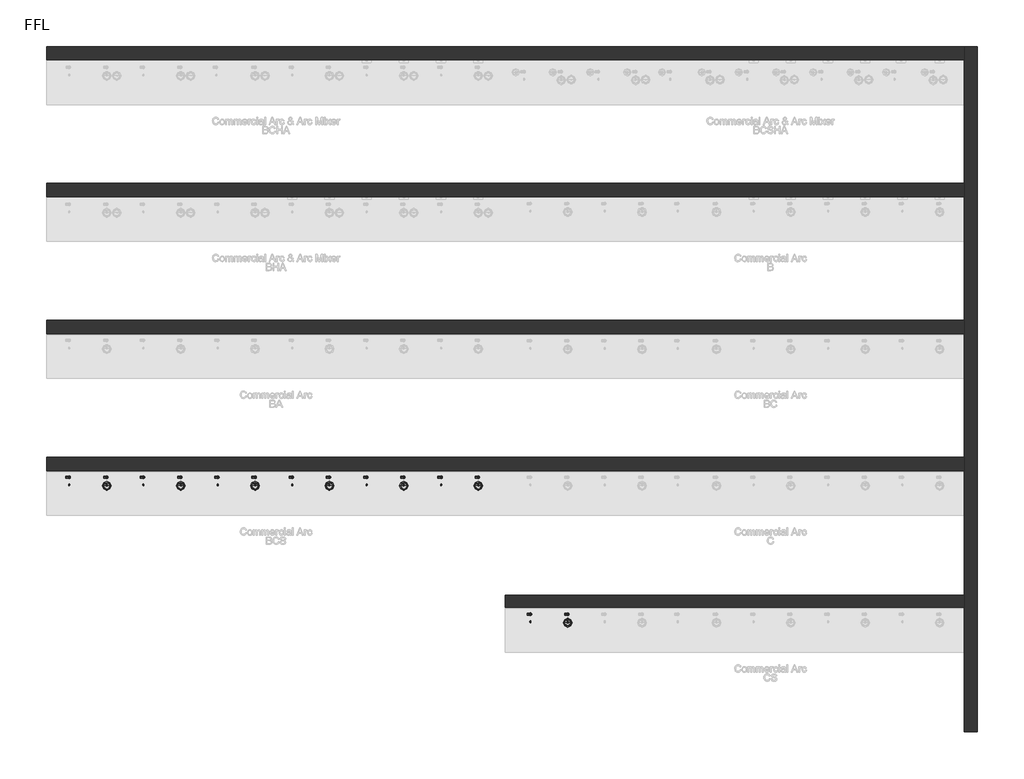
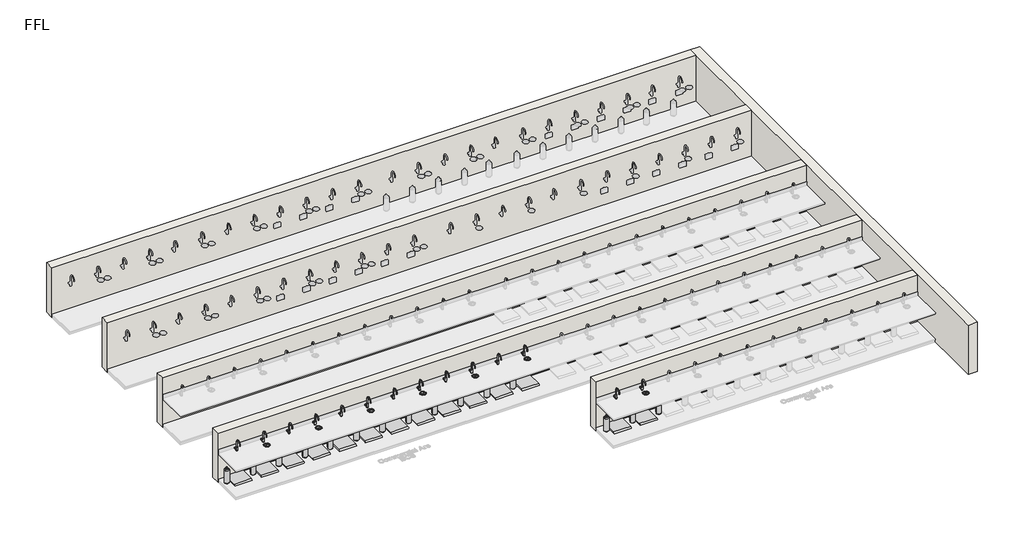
# One storey, part 1 of 10: 56 flow terminals, 6 walls.
"""IFC4 building model written with IfcOpenShell, lengths in millimetres."""

from ifc_helpers import new_model, si_unit, origin, origin_with_axes, place, context, project, spatial, polyline, outline, extrude, faceted_brep, transform, mapped, element, save
from components import flow_terminal_1fd3c137, bcs_and_bc_6de74493, bright_chrome_dafbc2dd, brushed_chrome_743c02cf, co2_gas_cylinder_20234e14

model = new_model("IFC4")

# Units and contexts
model_context = context("Model", 3, world=origin())
ifc_project = project(units=[si_unit("LENGTHUNIT", "METRE", prefix="MILLI")], contexts=[model_context])

# Site, building, storey
site = spatial("IfcSite", under=ifc_project)
building = spatial("IfcBuilding", under=site)
storey = spatial("IfcBuildingStorey", under=building, Name="FFL", Elevation=0.0)

# Flow terminals
placement = place(None, origin())
flow_terminal_shape = flow_terminal_1fd3c137(model_context)
element("IfcFlowTerminal", 1, ObjectType="z_PlumFixt_Zenith_Booster : Booster", at=placement, inside=storey, context=model_context, shape_type="MappedRepresentation", body=[
    mapped(flow_terminal_shape, transform((2786.2647071, -3139.7606696, 538.0), x_axis=(1.0, 0.0, 0.0), y_axis=(0.0, 1.0, 0.0), z_axis=(0.0, 0.0, 1.0))),
])
element("IfcFlowTerminal", 2, ObjectType="z_PlumFixt_Zenith_Booster : Booster", at=placement, inside=storey, context=model_context, shape_type="MappedRepresentation", body=[
    mapped(flow_terminal_shape, transform((3536.2647071, -3139.7606696, 538.0), x_axis=(1.0, 0.0, 0.0), y_axis=(0.0, 1.0, 0.0), z_axis=(0.0, 0.0, 1.0))),
])
element("IfcFlowTerminal", 3, ObjectType="z_PlumFixt_Zenith_Booster : Booster", at=placement, inside=storey, context=model_context, shape_type="MappedRepresentation", body=[
    mapped(flow_terminal_shape, transform((1733.2647071, -379.7606696, 538.0), x_axis=(1.0, 0.0, 0.0), y_axis=(0.0, 1.0, 0.0), z_axis=(0.0, 0.0, 1.0))),
])
element("IfcFlowTerminal", 4, ObjectType="z_PlumFixt_Zenith_Booster : Booster", at=placement, inside=storey, context=model_context, shape_type="MappedRepresentation", body=[
    mapped(flow_terminal_shape, transform((983.2647071, -379.7606696, 538.0), x_axis=(1.0, 0.0, 0.0), y_axis=(0.0, 1.0, 0.0), z_axis=(0.0, 0.0, 1.0))),
])
element("IfcFlowTerminal", 5, ObjectType="z_PlumFixt_Zenith_Booster : Booster", at=placement, inside=storey, context=model_context, shape_type="MappedRepresentation", body=[
    mapped(flow_terminal_shape, transform((233.2647071, -379.7606696, 538.0), x_axis=(1.0, 0.0, 0.0), y_axis=(0.0, 1.0, 0.0), z_axis=(0.0, 0.0, 1.0))),
])
element("IfcFlowTerminal", 6, ObjectType="z_PlumFixt_Zenith_Booster : Booster", at=placement, inside=storey, context=model_context, shape_type="MappedRepresentation", body=[
    mapped(flow_terminal_shape, transform((-516.7352929, -379.7606696, 538.0), x_axis=(1.0, 0.0, 0.0), y_axis=(0.0, 1.0, 0.0), z_axis=(0.0, 0.0, 1.0))),
])
bcs_and_bc_shape = bcs_and_bc_6de74493(model_context)
element("IfcFlowTerminal", 7, ObjectType="z_PlumFixt_Zenith_Vent Tray : BCS and BC", at=placement, inside=storey, context=model_context, shape_type="MappedRepresentation", body=[
    mapped(bcs_and_bc_shape, transform((-6516.7352929, -559.2606696, 100.0), x_axis=(1.0, 0.0, 0.0), y_axis=(0.0, 1.0, 0.0), z_axis=(0.0, 0.0, 1.0))),
])
element("IfcFlowTerminal", 8, ObjectType="z_PlumFixt_Zenith_Vent Tray : BCS and BC", at=placement, inside=storey, context=model_context, shape_type="MappedRepresentation", body=[
    mapped(bcs_and_bc_shape, transform((-5756.7352929, -559.2606696, 100.0), x_axis=(1.0, 0.0, 0.0), y_axis=(0.0, 1.0, 0.0), z_axis=(0.0, 0.0, 1.0))),
])
element("IfcFlowTerminal", 9, ObjectType="z_PlumFixt_Zenith_Vent Tray : BCS and BC", at=placement, inside=storey, context=model_context, shape_type="MappedRepresentation", body=[
    mapped(bcs_and_bc_shape, transform((-5016.7352929, -559.2606696, 100.0), x_axis=(1.0, 0.0, 0.0), y_axis=(0.0, 1.0, 0.0), z_axis=(0.0, 0.0, 1.0))),
])
element("IfcFlowTerminal", 10, ObjectType="z_PlumFixt_Zenith_Vent Tray : BCS and BC", at=placement, inside=storey, context=model_context, shape_type="MappedRepresentation", body=[
    mapped(bcs_and_bc_shape, transform((-4266.7352929, -559.2606696, 100.0), x_axis=(1.0, 0.0, 0.0), y_axis=(0.0, 1.0, 0.0), z_axis=(0.0, 0.0, 1.0))),
])
element("IfcFlowTerminal", 11, ObjectType="z_PlumFixt_Zenith_Vent Tray : BCS and BC", at=placement, inside=storey, context=model_context, shape_type="MappedRepresentation", body=[
    mapped(bcs_and_bc_shape, transform((-3516.7352929, -559.2606696, 100.0), x_axis=(1.0, 0.0, 0.0), y_axis=(0.0, 1.0, 0.0), z_axis=(0.0, 0.0, 1.0))),
])
element("IfcFlowTerminal", 12, ObjectType="z_PlumFixt_Zenith_Vent Tray : BCS and BC", at=placement, inside=storey, context=model_context, shape_type="MappedRepresentation", body=[
    mapped(bcs_and_bc_shape, transform((-2766.7352929, -559.2606696, 100.0), x_axis=(1.0, 0.0, 0.0), y_axis=(0.0, 1.0, 0.0), z_axis=(0.0, 0.0, 1.0))),
])
element("IfcFlowTerminal", 13, ObjectType="z_PlumFixt_Zenith_Vent Tray : BCS and BC", at=placement, inside=storey, context=model_context, shape_type="MappedRepresentation", body=[
    mapped(bcs_and_bc_shape, transform((-2016.7352929, -559.2606696, 100.0), x_axis=(1.0, 0.0, 0.0), y_axis=(0.0, 1.0, 0.0), z_axis=(0.0, 0.0, 1.0))),
])
element("IfcFlowTerminal", 14, ObjectType="z_PlumFixt_Zenith_Vent Tray : BCS and BC", at=placement, inside=storey, context=model_context, shape_type="MappedRepresentation", body=[
    mapped(bcs_and_bc_shape, transform((-1266.7352929, -559.2606696, 100.0), x_axis=(1.0, 0.0, 0.0), y_axis=(0.0, 1.0, 0.0), z_axis=(0.0, 0.0, 1.0))),
])
element("IfcFlowTerminal", 15, ObjectType="z_PlumFixt_Zenith_Vent Tray : BCS and BC", at=placement, inside=storey, context=model_context, shape_type="MappedRepresentation", body=[
    mapped(bcs_and_bc_shape, transform((-516.7352929, -559.2606696, 100.0), x_axis=(1.0, 0.0, 0.0), y_axis=(0.0, 1.0, 0.0), z_axis=(0.0, 0.0, 1.0))),
])
element("IfcFlowTerminal", 16, ObjectType="z_PlumFixt_Zenith_Vent Tray : BCS and BC", at=placement, inside=storey, context=model_context, shape_type="MappedRepresentation", body=[
    mapped(bcs_and_bc_shape, transform((233.2647071, -559.2606696, 100.0), x_axis=(1.0, 0.0, 0.0), y_axis=(0.0, 1.0, 0.0), z_axis=(0.0, 0.0, 1.0))),
])
element("IfcFlowTerminal", 17, ObjectType="z_PlumFixt_Zenith_Vent Tray : BCS and BC", at=placement, inside=storey, context=model_context, shape_type="MappedRepresentation", body=[
    mapped(bcs_and_bc_shape, transform((983.2647071, -559.2606696, 100.0), x_axis=(1.0, 0.0, 0.0), y_axis=(0.0, 1.0, 0.0), z_axis=(0.0, 0.0, 1.0))),
])
element("IfcFlowTerminal", 18, ObjectType="z_PlumFixt_Zenith_Vent Tray : BCS and BC", at=placement, inside=storey, context=model_context, shape_type="MappedRepresentation", body=[
    mapped(bcs_and_bc_shape, transform((1733.2647071, -559.2606696, 100.0), x_axis=(1.0, 0.0, 0.0), y_axis=(0.0, 1.0, 0.0), z_axis=(0.0, 0.0, 1.0))),
])
bright_chrome_shape = bright_chrome_dafbc2dd(model_context)
element("IfcFlowTerminal", 19, ObjectType="z_PlumFixt_Zenith_Arc : Bright Chrome", at=placement, inside=storey, context=model_context, shape_type="MappedRepresentation", body=[
    mapped(bright_chrome_shape, transform((2769.2647071, -3414.2606696, 900.0), x_axis=(1.0, 0.0, 0.0), y_axis=(0.0, 1.0, 0.0), z_axis=(0.0, 0.0, 1.0))),
])
element("IfcFlowTerminal", 20, ObjectType="z_PlumFixt_Zenith_Arc : Bright Chrome", at=placement, inside=storey, context=model_context, shape_type="MappedRepresentation", body=[
    mapped(bright_chrome_shape, transform((-6533.7352929, -654.2606696, 900.0), x_axis=(1.0, 0.0, 0.0), y_axis=(0.0, 1.0, 0.0), z_axis=(0.0, 0.0, 1.0))),
])
brushed_chrome_shape = brushed_chrome_743c02cf(model_context)
element("IfcFlowTerminal", 21, ObjectType="z_PlumFixt_Zenith_Font : Brushed Chrome", at=placement, inside=storey, context=model_context, shape_type="MappedRepresentation", body=[
    mapped(brushed_chrome_shape, transform((3536.2647071, -3513.7606696, 900.0), x_axis=(1.0, 0.0, 0.0), y_axis=(0.0, 1.0, 0.0), z_axis=(0.0, 0.0, 1.0))),
])
element("IfcFlowTerminal", 22, ObjectType="z_PlumFixt_Zenith_Font : Brushed Chrome", at=placement, inside=storey, context=model_context, shape_type="MappedRepresentation", body=[
    mapped(brushed_chrome_shape, transform((-5756.7352929, -753.7606696, 900.0), x_axis=(1.0, 0.0, 0.0), y_axis=(0.0, 1.0, 0.0), z_axis=(0.0, 0.0, 1.0))),
])
element("IfcFlowTerminal", 23, ObjectType="z_PlumFixt_Zenith_Arc : Brushed Chrome", at=placement, inside=storey, context=model_context, shape_type="MappedRepresentation", body=[
    mapped(bright_chrome_shape, transform((3519.2647071, -3414.2606696, 900.0), x_axis=(1.0, 0.0, 0.0), y_axis=(0.0, 1.0, 0.0), z_axis=(0.0, 0.0, 1.0))),
])
element("IfcFlowTerminal", 24, ObjectType="z_PlumFixt_Zenith_Arc : Brushed Chrome", at=placement, inside=storey, context=model_context, shape_type="MappedRepresentation", body=[
    mapped(bright_chrome_shape, transform((-5773.7352929, -654.2606696, 900.0), x_axis=(1.0, 0.0, 0.0), y_axis=(0.0, 1.0, 0.0), z_axis=(0.0, 0.0, 1.0))),
])
element("IfcFlowTerminal", 25, ObjectType="z_PlumFixt_Zenith_Arc : Brushed Gold", at=placement, inside=storey, context=model_context, shape_type="MappedRepresentation", body=[
    mapped(bright_chrome_shape, transform((-5033.7352929, -654.2606696, 900.0), x_axis=(1.0, 0.0, 0.0), y_axis=(0.0, 1.0, 0.0), z_axis=(0.0, 0.0, 1.0))),
])
element("IfcFlowTerminal", 26, ObjectType="z_PlumFixt_Zenith_Font : Brushed Nickel", at=placement, inside=storey, context=model_context, shape_type="MappedRepresentation", body=[
    mapped(brushed_chrome_shape, transform((-4266.7352929, -753.7606696, 900.0), x_axis=(1.0, 0.0, 0.0), y_axis=(0.0, 1.0, 0.0), z_axis=(0.0, 0.0, 1.0))),
])
element("IfcFlowTerminal", 27, ObjectType="z_PlumFixt_Zenith_Arc : Brushed Nickel", at=placement, inside=storey, context=model_context, shape_type="MappedRepresentation", body=[
    mapped(bright_chrome_shape, transform((-4283.7352929, -654.2606696, 900.0), x_axis=(1.0, 0.0, 0.0), y_axis=(0.0, 1.0, 0.0), z_axis=(0.0, 0.0, 1.0))),
])
element("IfcFlowTerminal", 28, ObjectType="z_PlumFixt_Zenith_Arc : Brushed Rose Gold", at=placement, inside=storey, context=model_context, shape_type="MappedRepresentation", body=[
    mapped(bright_chrome_shape, transform((-3533.7352929, -654.2606696, 900.0), x_axis=(1.0, 0.0, 0.0), y_axis=(0.0, 1.0, 0.0), z_axis=(0.0, 0.0, 1.0))),
])
co2_gas_cylinder_shape = co2_gas_cylinder_20234e14(model_context)
element("IfcFlowTerminal", 29, ObjectType="z_PlumFixt_Zenith_CO2 Gas Cylinder : CO2 Gas Cylinder", at=placement, inside=storey, context=model_context, shape_type="MappedRepresentation", body=[
    mapped(co2_gas_cylinder_shape, transform((2448.2647071, -3521.7606696, 100.0), x_axis=(-1.0, 0.0, 0.0), y_axis=(0.0, -1.0, 0.0), z_axis=(0.0, 0.0, 1.0))),
])
element("IfcFlowTerminal", 30, ObjectType="z_PlumFixt_Zenith_CO2 Gas Cylinder : CO2 Gas Cylinder", at=placement, inside=storey, context=model_context, shape_type="MappedRepresentation", body=[
    mapped(co2_gas_cylinder_shape, transform((3198.2647071, -3521.7606696, 100.0), x_axis=(-1.0, 0.0, 0.0), y_axis=(0.0, -1.0, 0.0), z_axis=(0.0, 0.0, 1.0))),
])
element("IfcFlowTerminal", 31, ObjectType="z_PlumFixt_Zenith_CO2 Gas Cylinder : CO2 Gas Cylinder", at=placement, inside=storey, context=model_context, shape_type="MappedRepresentation", body=[
    mapped(co2_gas_cylinder_shape, transform((3948.2647071, -3521.7606696, 100.0), x_axis=(-1.0, 0.0, 0.0), y_axis=(0.0, -1.0, 0.0), z_axis=(0.0, 0.0, 1.0))),
])
element("IfcFlowTerminal", 32, ObjectType="z_PlumFixt_Zenith_CO2 Gas Cylinder : CO2 Gas Cylinder", at=placement, inside=storey, context=model_context, shape_type="MappedRepresentation", body=[
    mapped(co2_gas_cylinder_shape, transform((-6863.7352929, -754.2606696, 100.0), x_axis=(-1.0, 0.0, 0.0), y_axis=(0.0, -1.0, 0.0), z_axis=(0.0, 0.0, 1.0))),
])
element("IfcFlowTerminal", 33, ObjectType="z_PlumFixt_Zenith_CO2 Gas Cylinder : CO2 Gas Cylinder", at=placement, inside=storey, context=model_context, shape_type="MappedRepresentation", body=[
    mapped(co2_gas_cylinder_shape, transform((-6103.7352929, -754.2606696, 100.0), x_axis=(-1.0, 0.0, 0.0), y_axis=(0.0, -1.0, 0.0), z_axis=(0.0, 0.0, 1.0))),
])
element("IfcFlowTerminal", 34, ObjectType="z_PlumFixt_Zenith_CO2 Gas Cylinder : CO2 Gas Cylinder", at=placement, inside=storey, context=model_context, shape_type="MappedRepresentation", body=[
    mapped(co2_gas_cylinder_shape, transform((-5363.7352929, -754.2606696, 100.0), x_axis=(-1.0, 0.0, 0.0), y_axis=(0.0, -1.0, 0.0), z_axis=(0.0, 0.0, 1.0))),
])
element("IfcFlowTerminal", 35, ObjectType="z_PlumFixt_Zenith_CO2 Gas Cylinder : CO2 Gas Cylinder", at=placement, inside=storey, context=model_context, shape_type="MappedRepresentation", body=[
    mapped(co2_gas_cylinder_shape, transform((-4613.7352929, -754.2606696, 100.0), x_axis=(-1.0, 0.0, 0.0), y_axis=(0.0, -1.0, 0.0), z_axis=(0.0, 0.0, 1.0))),
])
element("IfcFlowTerminal", 36, ObjectType="z_PlumFixt_Zenith_CO2 Gas Cylinder : CO2 Gas Cylinder", at=placement, inside=storey, context=model_context, shape_type="MappedRepresentation", body=[
    mapped(co2_gas_cylinder_shape, transform((-3891.7352929, -755.7606696, 100.0), x_axis=(-1.0, 0.0, 0.0), y_axis=(0.0, -1.0, 0.0), z_axis=(0.0, 0.0, 1.0))),
])
element("IfcFlowTerminal", 37, ObjectType="z_PlumFixt_Zenith_CO2 Gas Cylinder : CO2 Gas Cylinder", at=placement, inside=storey, context=model_context, shape_type="MappedRepresentation", body=[
    mapped(co2_gas_cylinder_shape, transform((-3141.7352929, -755.7606696, 100.0), x_axis=(-1.0, 0.0, 0.0), y_axis=(0.0, -1.0, 0.0), z_axis=(0.0, 0.0, 1.0))),
])
element("IfcFlowTerminal", 38, ObjectType="z_PlumFixt_Zenith_CO2 Gas Cylinder : CO2 Gas Cylinder", at=placement, inside=storey, context=model_context, shape_type="MappedRepresentation", body=[
    mapped(co2_gas_cylinder_shape, transform((-2391.7352929, -755.7606696, 100.0), x_axis=(-1.0, 0.0, 0.0), y_axis=(0.0, -1.0, 0.0), z_axis=(0.0, 0.0, 1.0))),
])
element("IfcFlowTerminal", 39, ObjectType="z_PlumFixt_Zenith_CO2 Gas Cylinder : CO2 Gas Cylinder", at=placement, inside=storey, context=model_context, shape_type="MappedRepresentation", body=[
    mapped(co2_gas_cylinder_shape, transform((-1641.7352929, -755.7606696, 100.0), x_axis=(-1.0, 0.0, 0.0), y_axis=(0.0, -1.0, 0.0), z_axis=(0.0, 0.0, 1.0))),
])
element("IfcFlowTerminal", 40, ObjectType="z_PlumFixt_Zenith_CO2 Gas Cylinder : CO2 Gas Cylinder", at=placement, inside=storey, context=model_context, shape_type="MappedRepresentation", body=[
    mapped(co2_gas_cylinder_shape, transform((-891.7352929, -755.7606696, 100.0), x_axis=(-1.0, 0.0, 0.0), y_axis=(0.0, -1.0, 0.0), z_axis=(0.0, 0.0, 1.0))),
])
element("IfcFlowTerminal", 41, ObjectType="z_PlumFixt_Zenith_CO2 Gas Cylinder : CO2 Gas Cylinder", at=placement, inside=storey, context=model_context, shape_type="MappedRepresentation", body=[
    mapped(co2_gas_cylinder_shape, transform((-141.7352929, -755.7606696, 100.0), x_axis=(-1.0, 0.0, 0.0), y_axis=(0.0, -1.0, 0.0), z_axis=(0.0, 0.0, 1.0))),
])
element("IfcFlowTerminal", 42, ObjectType="z_PlumFixt_Zenith_CO2 Gas Cylinder : CO2 Gas Cylinder", at=placement, inside=storey, context=model_context, shape_type="MappedRepresentation", body=[
    mapped(co2_gas_cylinder_shape, transform((608.2647071, -755.7606696, 100.0), x_axis=(-1.0, 0.0, 0.0), y_axis=(0.0, -1.0, 0.0), z_axis=(0.0, 0.0, 1.0))),
])
element("IfcFlowTerminal", 43, ObjectType="z_PlumFixt_Zenith_CO2 Gas Cylinder : CO2 Gas Cylinder", at=placement, inside=storey, context=model_context, shape_type="MappedRepresentation", body=[
    mapped(co2_gas_cylinder_shape, transform((1358.2647071, -755.7606696, 100.0), x_axis=(-1.0, 0.0, 0.0), y_axis=(0.0, -1.0, 0.0), z_axis=(0.0, 0.0, 1.0))),
])
element("IfcFlowTerminal", 44, ObjectType="z_PlumFixt_Zenith_Vent Tray : CS and C", at=placement, inside=storey, context=model_context, shape_type="MappedRepresentation", body=[
    mapped(bcs_and_bc_shape, transform((2786.2647071, -3319.2606696, 100.0), x_axis=(1.0, 0.0, 0.0), y_axis=(0.0, 1.0, 0.0), z_axis=(0.0, 0.0, 1.0))),
])
element("IfcFlowTerminal", 45, ObjectType="z_PlumFixt_Zenith_Vent Tray : CS and C", at=placement, inside=storey, context=model_context, shape_type="MappedRepresentation", body=[
    mapped(bcs_and_bc_shape, transform((3536.2647071, -3319.2606696, 100.0), x_axis=(1.0, 0.0, 0.0), y_axis=(0.0, 1.0, 0.0), z_axis=(0.0, 0.0, 1.0))),
])
element("IfcFlowTerminal", 46, ObjectType="z_PlumFixt_Zenith_Font : Gloss Black", at=placement, inside=storey, context=model_context, shape_type="MappedRepresentation", body=[
    mapped(brushed_chrome_shape, transform((-2766.7352929, -753.7606696, 900.0), x_axis=(1.0, 0.0, 0.0), y_axis=(0.0, 1.0, 0.0), z_axis=(0.0, 0.0, 1.0))),
])
element("IfcFlowTerminal", 47, ObjectType="z_PlumFixt_Zenith_Arc : Gloss Black", at=placement, inside=storey, context=model_context, shape_type="MappedRepresentation", body=[
    mapped(bright_chrome_shape, transform((-2783.7352929, -654.2606696, 900.0), x_axis=(1.0, 0.0, 0.0), y_axis=(0.0, 1.0, 0.0), z_axis=(0.0, 0.0, 1.0))),
])
element("IfcFlowTerminal", 48, ObjectType="z_PlumFixt_Zenith_Arc : Gold", at=placement, inside=storey, context=model_context, shape_type="MappedRepresentation", body=[
    mapped(bright_chrome_shape, transform((-2033.7352929, -654.2606696, 900.0), x_axis=(1.0, 0.0, 0.0), y_axis=(0.0, 1.0, 0.0), z_axis=(0.0, 0.0, 1.0))),
])
element("IfcFlowTerminal", 49, ObjectType="z_PlumFixt_Zenith_Font : Gunmetal", at=placement, inside=storey, context=model_context, shape_type="MappedRepresentation", body=[
    mapped(brushed_chrome_shape, transform((-1266.7352929, -753.7606696, 900.0), x_axis=(1.0, 0.0, 0.0), y_axis=(0.0, 1.0, 0.0), z_axis=(0.0, 0.0, 1.0))),
])
element("IfcFlowTerminal", 50, ObjectType="z_PlumFixt_Zenith_Arc : Gunmetal", at=placement, inside=storey, context=model_context, shape_type="MappedRepresentation", body=[
    mapped(bright_chrome_shape, transform((-1283.7352929, -654.2606696, 900.0), x_axis=(1.0, 0.0, 0.0), y_axis=(0.0, 1.0, 0.0), z_axis=(0.0, 0.0, 1.0))),
])
element("IfcFlowTerminal", 51, ObjectType="z_PlumFixt_Zenith_Arc : Matte Black", at=placement, inside=storey, context=model_context, shape_type="MappedRepresentation", body=[
    mapped(bright_chrome_shape, transform((-533.7352929, -654.2606696, 900.0), x_axis=(1.0, 0.0, 0.0), y_axis=(0.0, 1.0, 0.0), z_axis=(0.0, 0.0, 1.0))),
])
element("IfcFlowTerminal", 52, ObjectType="z_PlumFixt_Zenith_Font : Nickel", at=placement, inside=storey, context=model_context, shape_type="MappedRepresentation", body=[
    mapped(brushed_chrome_shape, transform((233.2647071, -753.7606696, 900.0), x_axis=(1.0, 0.0, 0.0), y_axis=(0.0, 1.0, 0.0), z_axis=(0.0, 0.0, 1.0))),
])
element("IfcFlowTerminal", 53, ObjectType="z_PlumFixt_Zenith_Arc : Nickel", at=placement, inside=storey, context=model_context, shape_type="MappedRepresentation", body=[
    mapped(bright_chrome_shape, transform((216.2647071, -654.2606696, 900.0), x_axis=(1.0, 0.0, 0.0), y_axis=(0.0, 1.0, 0.0), z_axis=(0.0, 0.0, 1.0))),
])
element("IfcFlowTerminal", 54, ObjectType="z_PlumFixt_Zenith_Arc : Platinum", at=placement, inside=storey, context=model_context, shape_type="MappedRepresentation", body=[
    mapped(bright_chrome_shape, transform((966.2647071, -654.2606696, 900.0), x_axis=(1.0, 0.0, 0.0), y_axis=(0.0, 1.0, 0.0), z_axis=(0.0, 0.0, 1.0))),
])
element("IfcFlowTerminal", 55, ObjectType="z_PlumFixt_Zenith_Font : Rose Gold", at=placement, inside=storey, context=model_context, shape_type="MappedRepresentation", body=[
    mapped(brushed_chrome_shape, transform((1733.2647071, -753.7606696, 900.0), x_axis=(1.0, 0.0, 0.0), y_axis=(0.0, 1.0, 0.0), z_axis=(0.0, 0.0, 1.0))),
])
element("IfcFlowTerminal", 56, ObjectType="z_PlumFixt_Zenith_Arc : Rose Gold", at=placement, inside=storey, context=model_context, shape_type="MappedRepresentation", body=[
    mapped(bright_chrome_shape, transform((1716.2647071, -654.2606696, 900.0), x_axis=(1.0, 0.0, 0.0), y_axis=(0.0, 1.0, 0.0), z_axis=(0.0, 0.0, 1.0))),
])

# Walls
element("IfcWall", 57, ObjectType="Brick veneer - 250 timber", at=placement, inside=storey, context=model_context, shape_type="SweptSolid", body=[
    extrude(outline(polyline([(2280.2647071, -2941.7606696), (11530.2647071, -2941.7606696), (11530.2647071, -3191.7606696), (2280.2647071, -3191.7606696), (2280.2647071, -2941.7606696)])), origin_with_axes(), (0.0, 0.0, 1.0), 1500.0),
])
element("IfcWall", 58, ObjectType="Double brick - 270", at=placement, inside=storey, context=model_context, shape_type="Brep", body=[
    faceted_brep([(11800.2647071, -5701.7606696, 0.0), (11800.2647071, 8118.2393304, 0.0), (11800.2647071, 8118.2393304, 1500.0), (11800.2647071, -5701.7606696, 1500.0), (11530.2647071, -5701.7606696, 0.0), (11530.2647071, -5701.7606696, 1500.0), (11530.2647071, -3191.7606696, 1500.0), (11530.2647071, -2941.7606696, 1500.0), (11530.2647071, -431.7606696, 1500.0), (11530.2647071, -161.7606696, 1500.0), (11530.2647071, 2328.2393304, 1500.0), (11530.2647071, 2598.2393304, 1500.0), (11530.2647071, 5088.2393304, 1500.0), (11530.2647071, 5358.2393304, 1500.0), (11530.2647071, 7848.2393304, 1500.0), (11530.2647071, 8118.2393304, 1500.0), (11530.2647071, 8118.2393304, 0.0), (11530.2647071, 7848.2393304, 0.0), (11530.2647071, 5358.2393304, 0.0), (11530.2647071, 5088.2393304, 0.0), (11530.2647071, 2598.2393304, 0.0), (11530.2647071, 2328.2393304, 0.0), (11530.2647071, -161.7606696, 0.0), (11530.2647071, -431.7606696, 0.0), (11530.2647071, -2941.7606696, 0.0), (11530.2647071, -3191.7606696, 0.0)], [[[0, 1, 2, 3]], [[4, 5, 6, 7, 8, 9, 10, 11, 12, 13, 14, 15, 16, 17, 18, 19, 20, 21, 22, 23, 24, 25]], [[1, 0, 4, 25, 24, 23, 22, 21, 20, 19, 18, 17, 16]], [[3, 2, 15, 14, 13, 12, 11, 10, 9, 8, 7, 6, 5]], [[0, 3, 5, 4]], [[2, 1, 16, 15]]]),
])
element("IfcWall", 59, ObjectType="Double brick - 270", at=placement, inside=storey, context=model_context, shape_type="SweptSolid", body=[
    extrude(outline(polyline([(11530.2647071, 7848.2393304), (-6969.7352929, 7848.2393304), (-6969.7352929, 8118.2393304), (11530.2647071, 8118.2393304), (11530.2647071, 7848.2393304)])), origin_with_axes(), (0.0, 0.0, 1.0), 1500.0),
])
element("IfcWall", 60, ObjectType="Double brick - 270", at=placement, inside=storey, context=model_context, shape_type="SweptSolid", body=[
    extrude(outline(polyline([(11530.2647071, 5088.2393304), (-6969.7352929, 5088.2393304), (-6969.7352929, 5358.2393304), (11530.2647071, 5358.2393304), (11530.2647071, 5088.2393304)])), origin_with_axes(), (0.0, 0.0, 1.0), 1500.0),
])
element("IfcWall", 61, ObjectType="Double brick - 270", at=placement, inside=storey, context=model_context, shape_type="SweptSolid", body=[
    extrude(outline(polyline([(11530.2647071, 2328.2393304), (-6969.7352929, 2328.2393304), (-6969.7352929, 2598.2393304), (11530.2647071, 2598.2393304), (11530.2647071, 2328.2393304)])), origin_with_axes(), (0.0, 0.0, 1.0), 1500.0),
])
element("IfcWall", 62, ObjectType="Double brick - 270", at=placement, inside=storey, context=model_context, shape_type="SweptSolid", body=[
    extrude(outline(polyline([(11530.2647071, -431.7606696), (-6969.7352929, -431.7606696), (-6969.7352929, -161.7606696), (11530.2647071, -161.7606696), (11530.2647071, -431.7606696)])), origin_with_axes(), (0.0, 0.0, 1.0), 1500.0),
])

save(model, "model.ifc")
